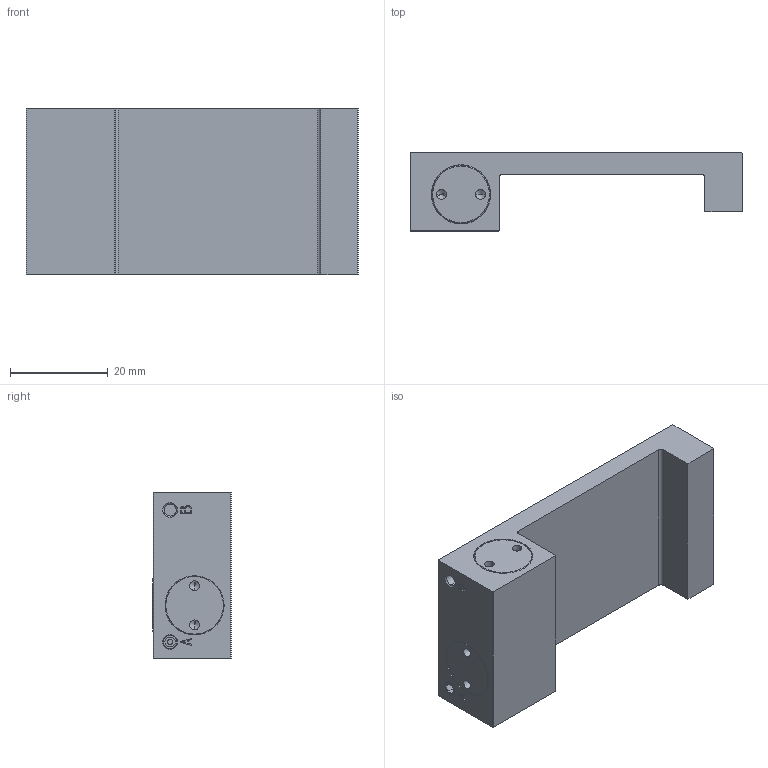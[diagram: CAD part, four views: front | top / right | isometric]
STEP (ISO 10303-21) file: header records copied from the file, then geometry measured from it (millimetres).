
FILE_DESCRIPTION( ( '' ), '1' );
FILE_NAME( 'E:/04 嬴檜蠱滌/0404 ZIMMER/040414 ZIMMER CAD download/MCP/MCP1500MW---.stp', '2020-04-16T10:02:25', ( '' ), ( '' ), ' ', ' ', ' ' );
FILE_SCHEMA( ( 'automotive_design' ) );
Length unit declared in the file: millimetre
Products named in the file (1): 1
Bounding box: 68 x 16.05 x 34 mm (x, y, z)
Volume: 19252.9 mm3; surface area: 7770 mm2
Topology: 1 solids, 1 shells, 114 faces, 268 edges, 168 vertices
Faces by surface type: plane 60, cylinder 32, cone 22
Entity records: 6272 total; most frequent: DIRECTION 570, STYLED_ITEM 543, PRESENTATION_STYLE_ASSIGNMENT 543, CARTESIAN_POINT 543, COLOUR_RGB 543, ORIENTED_EDGE 520, EDGE_CURVE 260, CURVE_STYLE 260
